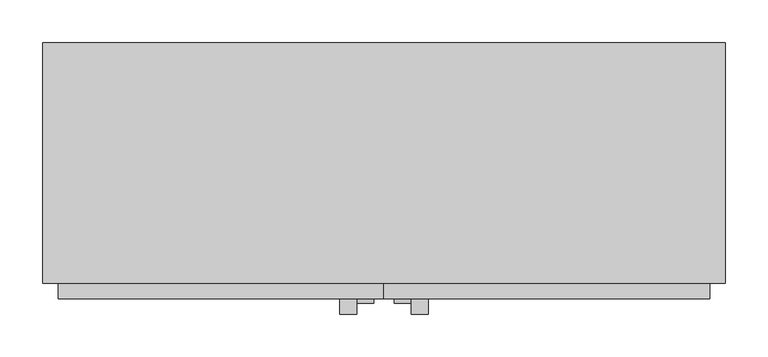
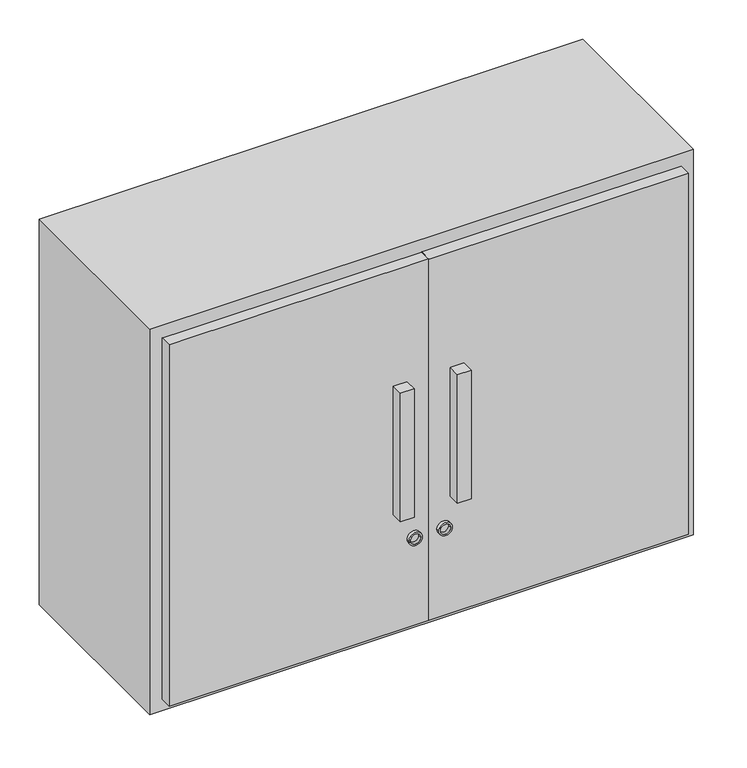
"""IFC4 building model written with IfcOpenShell, lengths in millimetres: proxy geometry, BIMHealth-300x600mm_Wall_Unit_Lockable-LOD2A-v1 : BIMHealth-300x600mm_Wall_Unit_Lockable-LOD2A-v1."""

import ifcopenshell
import ifcopenshell.guid

model = None  # the IFC model being written
_history = None  # IfcOwnerHistory: only IFC2X3 demands one
_inside = {}  # id of a spatial element -> (the spatial element, [elements in it])
_under = {}  # id of a project, library or spatial element -> (it, [spatial elements below it])
_declared = {}  # id of a project -> (the project, [libraries it declares])
_typed = {}  # id of a type object -> (the type object, [elements of that type])
_made_of = {}  # id of a material, layer set ... -> (it, [elements and type objects made of it])


def new_model(schema):
    """Start an empty IFC model of exactly this schema.

    Asked for "IFC4X3", IfcOpenShell would pick the latest addendum, in which some entities
    have other attributes; the version numbers below select the first issue.
    IFC2X3 requires an IfcOwnerHistory on every rooted entity: one is made here for all.
    """
    global model, _history
    if schema == "IFC4X3":
        model = ifcopenshell.file(schema_version=(4, 3, 0, 0))
    else:
        model = ifcopenshell.file(schema=schema)
    _inside.clear()
    _under.clear()
    _declared.clear()
    _typed.clear()
    _made_of.clear()
    _history = None
    if model.schema == "IFC2X3":
        org = make("IfcOrganization", Name="unknown")
        user = make(
            "IfcPersonAndOrganization",
            ThePerson=make("IfcPerson", FamilyName="unknown"),
            TheOrganization=org,
        )
        app = make(
            "IfcApplication",
            ApplicationDeveloper=org,
            Version="unknown",
            ApplicationFullName="unknown",
            ApplicationIdentifier="unknown",
        )
        _history = make(
            "IfcOwnerHistory",
            OwningUser=user,
            OwningApplication=app,
            ChangeAction="ADDED",
            CreationDate=0,
        )
    return model


def make(cls, **values):
    """One entity of the class cls with the attributes given. An attribute that is None is left unset."""
    return model.create_entity(
        cls, **{name: value for name, value in values.items() if value is not None}
    )


def rooted(cls, **values):
    """An entity with a GlobalId (a new one), such as an element, a storey or a relation."""
    return make(cls, GlobalId=ifcopenshell.guid.new(), OwnerHistory=_history, **values)


def si_unit(unit_type, name, prefix=None):
    """IfcSIUnit, for example si_unit("LENGTHUNIT", "METRE", prefix="MILLI")."""
    return make("IfcSIUnit", UnitType=unit_type, Prefix=prefix, Name=name)


def assignment(units):
    """IfcUnitAssignment: the units of a project."""
    return None if units is None else make("IfcUnitAssignment", Units=units)


def point(xyz):
    """IfcCartesianPoint."""
    return None if xyz is None else make("IfcCartesianPoint", Coordinates=xyz)


def direction(xyz):
    """IfcDirection."""
    return None if xyz is None else make("IfcDirection", DirectionRatios=xyz)


def frame(location, z_axis=None, x_axis=None):
    """IfcAxis2Placement3D, a coordinate frame: its origin and axes. An axis left out is left unset."""
    return make(
        "IfcAxis2Placement3D",
        Location=point(location),
        Axis=direction(z_axis),
        RefDirection=direction(x_axis),
    )


def frame_2d(location, x_axis=None):
    """IfcAxis2Placement2D, a coordinate frame in the plane: its origin and x axis."""
    return make(
        "IfcAxis2Placement2D", Location=point(location), RefDirection=direction(x_axis)
    )


def origin():
    """The frame at (0, 0, 0) with its axes left unset."""
    return frame((0.0, 0.0, 0.0))


def place(relative_to, where):
    """IfcLocalPlacement: puts the frame where relative to a parent placement (None: the world)."""
    return make(
        "IfcLocalPlacement", PlacementRelTo=relative_to, RelativePlacement=where
    )


def context(
    kind, dimensions, precision=None, world=None, true_north=None, identifier=None
):
    """IfcGeometricRepresentationContext, for example the 3D "Model" context."""
    return make(
        "IfcGeometricRepresentationContext",
        ContextIdentifier=identifier,
        ContextType=kind,
        CoordinateSpaceDimension=dimensions,
        Precision=precision,
        WorldCoordinateSystem=world,
        TrueNorth=true_north,
    )


def project(units=None, contexts=None):
    """IfcProject with its units and contexts."""
    return rooted(
        "IfcProject",
        Name="project",
        RepresentationContexts=contexts,
        UnitsInContext=assignment(units),
    )


def spatial(cls, under=None, at=None, **own):
    """A site, building, storey or space (cls), placed at a placement, below another one or the project."""
    s = rooted(cls, ObjectPlacement=at, **own)
    if under is not None:
        _under.setdefault(under.id(), (under, []))[1].append(s)
    return s


def polyline(points):
    """IfcPolyline through the points."""
    return make("IfcPolyline", Points=[point(p) for p in points])


def circle_curve(where, radius):
    """IfcCircle in the frame where."""
    return make("IfcCircle", Position=where, Radius=radius)


def trimmed(basis, trim1, trim2, sense, master):
    """IfcTrimmedCurve: the piece of a basis curve between two trims."""
    return make(
        "IfcTrimmedCurve",
        BasisCurve=basis,
        Trim1=trim1,
        Trim2=trim2,
        SenseAgreement=sense,
        MasterRepresentation=master,
    )


def segment(curve, same_sense, transition):
    """IfcCompositeCurveSegment."""
    return make(
        "IfcCompositeCurveSegment",
        Transition=transition,
        SameSense=same_sense,
        ParentCurve=curve,
    )


def composite_curve(segments, self_intersect=None):
    """IfcCompositeCurve: segments joined end to end."""
    return make("IfcCompositeCurve", Segments=segments, SelfIntersect=self_intersect)


def outline(outer, holes=None, kind="AREA"):
    """IfcArbitraryClosedProfileDef: a profile drawn as a closed curve; with holes, ...WithVoids."""
    if holes is None:
        return make("IfcArbitraryClosedProfileDef", ProfileType=kind, OuterCurve=outer)
    return make(
        "IfcArbitraryProfileDefWithVoids",
        ProfileType=kind,
        OuterCurve=outer,
        InnerCurves=holes,
    )


def extrude(swept, where, along, depth):
    """IfcExtrudedAreaSolid: the profile swept, set in the frame where, extruded along a direction by depth."""
    return make(
        "IfcExtrudedAreaSolid",
        SweptArea=swept,
        Position=where,
        ExtrudedDirection=direction(along),
        Depth=depth,
    )


def faces_of(points, faces, orient=None, outer=None):
    """IfcFace entities. A face is a list of loops; a loop is a list of indices into points, from 0.

    orient and outer hold one flag for each loop. By default every Orientation is true, the
    first loop of a face is its IfcFaceOuterBound and the others are IfcFaceBound.
    """
    made = []
    for i, loops in enumerate(faces):
        bounds = []
        for j, loop in enumerate(loops):
            is_outer = j == 0 if outer is None else outer[i][j]
            bounds.append(
                make(
                    "IfcFaceOuterBound" if is_outer else "IfcFaceBound",
                    Bound=make("IfcPolyLoop", Polygon=[points[k] for k in loop]),
                    Orientation=True if orient is None else orient[i][j],
                )
            )
        made.append(make("IfcFace", Bounds=bounds))
    return made


def faceted_brep(points, faces, orient=None, outer=None, voids=None):
    """IfcFacetedBrep: a solid bounded by flat faces; with voids (closed shells), ...WithVoids."""
    shared = [point(p) for p in points]
    hull = make("IfcClosedShell", CfsFaces=faces_of(shared, faces, orient, outer))
    if voids is None:
        return make("IfcFacetedBrep", Outer=hull)
    return make(
        "IfcFacetedBrepWithVoids",
        Outer=hull,
        Voids=[
            make(cls, CfsFaces=faces_of(shared, fs, o, b)) for cls, fs, o, b in voids
        ],
    )


def shape(context_of_items, identifier, shape_type, items):
    """IfcShapeRepresentation: the items that make up one representation, for example the "Body"."""
    return make(
        "IfcShapeRepresentation",
        ContextOfItems=context_of_items,
        RepresentationIdentifier=identifier,
        RepresentationType=shape_type,
        Items=items,
    )


def source(mapping_origin, context_of_items, identifier, shape_type, items):
    """IfcRepresentationMap: a shape defined once, which mapped items show again and again."""
    return make(
        "IfcRepresentationMap",
        MappingOrigin=mapping_origin,
        MappedRepresentation=shape(context_of_items, identifier, shape_type, items),
    )


def transform(
    local_origin,
    x_axis=None,
    y_axis=None,
    z_axis=None,
    scale=None,
    scale2=None,
    scale3=None,
    uniform=True,
):
    """IfcCartesianTransformationOperator3D, or its non-uniform kind. x_axis, y_axis, z_axis: its Axis1, 2, 3."""
    if uniform:
        return make(
            "IfcCartesianTransformationOperator3D",
            Axis1=direction(x_axis),
            Axis2=direction(y_axis),
            LocalOrigin=point(local_origin),
            Scale=scale,
            Axis3=direction(z_axis),
        )
    return make(
        "IfcCartesianTransformationOperator3DnonUniform",
        Axis1=direction(x_axis),
        Axis2=direction(y_axis),
        LocalOrigin=point(local_origin),
        Scale=scale,
        Axis3=direction(z_axis),
        Scale2=scale2,
        Scale3=scale3,
    )


def mapped(mapping_source, mapping_target):
    """IfcMappedItem: shows the shape of a source again, moved by a transform."""
    return make(
        "IfcMappedItem", MappingSource=mapping_source, MappingTarget=mapping_target
    )


def made_of(thing, what):
    """Note that an element or type object is made of a material, layer set ...; save() writes the relation."""
    if what is not None:
        _made_of.setdefault(what.id(), (what, []))[1].append(thing)
    return thing


def element(
    cls,
    number,
    at=None,
    inside=None,
    cuts=None,
    type_object=None,
    material=None,
    context=None,
    identifier="Body",
    shape_type=None,
    held_by="IfcProductDefinitionShape",
    body=None,
    shapes=None,
    **own,
):
    """One element of the class cls, such as IfcWall. Its Tag is "e" and its number.

    at: its placement. inside: the storey or other place that contains it. cuts: it is an
    opening in that element (IfcRelVoidsElement). A single representation is given by context,
    identifier, shape_type and body (its items); several are given by shapes. held_by: the class
    of the entity that holds the representations. save() writes the other relations.
    """
    e = rooted(cls, Tag="e%d" % number, ObjectPlacement=at, **own)
    if body is not None:
        shapes = [shape(context, identifier, shape_type, body)]
    if shapes is not None:
        e.Representation = make(held_by, Representations=shapes)
    if inside is not None:
        _inside.setdefault(inside.id(), (inside, []))[1].append(e)
    if cuts is not None:
        rooted(
            "IfcRelVoidsElement", RelatingBuildingElement=cuts, RelatedOpeningElement=e
        )
    if type_object is not None:
        _typed.setdefault(type_object.id(), (type_object, []))[1].append(e)
    return made_of(e, material)


def aggregate(whole, parts):
    """IfcRelAggregates: a whole, such as a stair, and the parts it consists of."""
    return rooted("IfcRelAggregates", RelatingObject=whole, RelatedObjects=parts)


def save(model, path):
    """Write the relations noted so far, then the file.

    IfcRelAggregates (storeys below a building ...), IfcRelContainedInSpatialStructure (elements
    in a storey), IfcRelDefinesByType, IfcRelAssociatesMaterial and IfcRelDeclares: one each for
    every whole, place, type object, material and project.
    """
    for whole, parts in _under.values():
        aggregate(whole, parts)
    for where, things in _inside.values():
        rooted(
            "IfcRelContainedInSpatialStructure",
            RelatedElements=things,
            RelatingStructure=where,
        )
    for kind, things in _typed.values():
        rooted("IfcRelDefinesByType", RelatedObjects=things, RelatingType=kind)
    for what, things in _made_of.values():
        rooted("IfcRelAssociatesMaterial", RelatedObjects=things, RelatingMaterial=what)
    for by, libraries in _declared.values():
        rooted("IfcRelDeclares", RelatingContext=by, RelatedDefinitions=libraries)
    model.write(path)


def generic_models_7410f563(model_context):
    return source(origin(), model_context, "Body", "SolidModel", [
        extrude(outline(composite_curve([segment(trimmed(circle_curve(frame_2d((1505.0, 321.9408872)), 10.0), [point((1505.0, 331.9408872))], [point((1505.0, 311.9408872))], False, "CARTESIAN"), True, "CONTINUOUS"), segment(trimmed(circle_curve(frame_2d((1505.0, 321.9408872)), 10.0), [point((1505.0, 311.9408872))], [point((1505.0, 331.9408872))], False, "CARTESIAN"), True, "CONTINUOUS")], self_intersect=False), holes=[composite_curve([segment(trimmed(circle_curve(frame_2d((1505.0, 321.9408872)), 7.5), [point((1505.0, 329.4408872))], [point((1505.0, 314.4408872))], True, "CARTESIAN"), True, "CONTINUOUS"), segment(trimmed(circle_curve(frame_2d((1505.0, 321.9408872)), 7.5), [point((1505.0, 314.4408872))], [point((1505.0, 329.4408872))], True, "CARTESIAN"), True, "CONTINUOUS")], self_intersect=False)]), frame((0.0, -305.0, 0.0), z_axis=(0.0, 1.0, 0.0), x_axis=(0.0, 0.0, 1.0)), (0.0, 0.0, 1.0), 5.0),
        extrude(outline(polyline([(351.9408872, -318.0), (331.9408872, -318.0), (331.9408872, -300.0), (351.9408872, -300.0), (351.9408872, -318.0)])), frame((0.0, 0.0, 1550.0), z_axis=(0.0, 0.0, 1.0), x_axis=(1.0, 0.0, 0.0)), (0.0, 0.0, 1.0), 200.0),
        extrude(outline(polyline([(299.9408872, -282.0), (681.9113309, -282.0), (681.9113309, -300.0), (299.9408872, -300.0), (299.9408872, -282.0)])), frame((0.0, 0.0, 1368.0), z_axis=(0.0, 0.0, 1.0), x_axis=(1.0, 0.0, 0.0)), (0.0, 0.0, 1.0), 562.0),
        extrude(outline(composite_curve([segment(trimmed(circle_curve(frame_2d((1505.0, 278.0)), 10.0), [point((1505.0, 268.0))], [point((1505.0, 288.0))], False, "CARTESIAN"), True, "CONTINUOUS"), segment(trimmed(circle_curve(frame_2d((1505.0, 278.0)), 10.0), [point((1505.0, 288.0))], [point((1505.0, 268.0))], False, "CARTESIAN"), True, "CONTINUOUS")], self_intersect=False), holes=[composite_curve([segment(trimmed(circle_curve(frame_2d((1505.0, 278.0)), 7.5), [point((1505.0, 270.5))], [point((1505.0, 285.5))], True, "CARTESIAN"), True, "CONTINUOUS"), segment(trimmed(circle_curve(frame_2d((1505.0, 278.0)), 7.5), [point((1505.0, 285.5))], [point((1505.0, 270.5))], True, "CARTESIAN"), True, "CONTINUOUS")], self_intersect=False)]), frame((0.0, -305.0, 0.0), z_axis=(0.0, 1.0, 0.0), x_axis=(0.0, 0.0, 1.0)), (0.0, 0.0, 1.0), 5.0),
        faceted_brep([(-81.9704436, -264.0, 1930.0), (-81.9704436, -18.0, 1930.0), (681.9704436, -18.0, 1930.0), (681.9704436, -264.0, 1930.0), (699.9704436, 0.0, 1950.0), (-99.9704436, 0.0, 1950.0), (-99.9704436, -282.0, 1950.0), (699.9704436, -282.0, 1950.0), (699.9704436, 0.0, 1350.0), (-99.9704436, 0.0, 1350.0), (-99.9704436, -282.0, 1350.0), (699.9704436, -282.0, 1350.0), (-81.9704436, -18.0, 1350.0), (-81.9704436, -264.0, 1350.0), (-80.8119288, -264.0, 1350.0), (-80.8119288, -18.0, 1350.0), (-80.8119288, -18.0, 1386.0), (681.9704436, -18.0, 1386.0), (681.9704436, -264.0, 1386.0), (-80.8119288, -264.0, 1386.0)], [[[0, 1, 2, 3]], [[4, 5, 6, 7]], [[5, 4, 8, 9]], [[6, 5, 9, 10]], [[7, 6, 10, 11]], [[4, 7, 11, 8]], [[11, 10, 9, 8], [12, 13, 14, 15]], [[13, 12, 1, 0]], [[1, 12, 15, 16, 17, 2]], [[3, 2, 17, 18]], [[13, 0, 3, 18, 19, 14]], [[16, 19, 18, 17]], [[19, 16, 15, 14]]]),
        extrude(outline(polyline([(268.0, -318.0), (248.0, -318.0), (248.0, -300.0), (268.0, -300.0), (268.0, -318.0)])), frame((0.0, 0.0, 1550.0), z_axis=(0.0, 0.0, 1.0), x_axis=(1.0, 0.0, 0.0)), (0.0, 0.0, 1.0), 200.0),
        extrude(outline(polyline([(300.0, -282.0), (300.0, -300.0), (-81.9704436, -300.0), (-81.9704436, -282.0), (300.0, -282.0)])), frame((0.0, 0.0, 1368.0), z_axis=(0.0, 0.0, 1.0), x_axis=(1.0, 0.0, 0.0)), (0.0, 0.0, 1.0), 562.0),
    ])


if __name__ == "__main__":
    model = new_model("IFC4")
    model_context = context("Model", 3, world=origin())
    ifc_project = project(units=[si_unit("LENGTHUNIT", "METRE", prefix="MILLI")], contexts=[model_context])
    site = spatial("IfcSite", under=ifc_project)
    building = spatial("IfcBuilding", under=site)
    placement = place(None, origin())
    generic_models_shape = generic_models_7410f563(model_context)
    element("IfcBuildingElementProxy", 1, Name="BIMHealth-300x600mm_Wall_Unit_Lockable-LOD2A-v1 : BIMHealth-300x600mm_Wall_Unit_Lockable-LOD2A-v1", ObjectType="BIMHealth-300x600mm_Wall_Unit_Lockable-LOD2A-v1 : BIMHealth-300x600mm_Wall_Unit_Lockable-LOD2A-v1", at=placement, inside=building, context=model_context, shape_type="MappedRepresentation", body=[
        mapped(generic_models_shape, transform((0.0, 0.0, 0.0), x_axis=(1.0, 0.0, 0.0), y_axis=(0.0, 1.0, 0.0), z_axis=(0.0, 0.0, 1.0))),
    ])
    save(model, "model.ifc")
